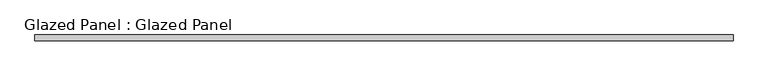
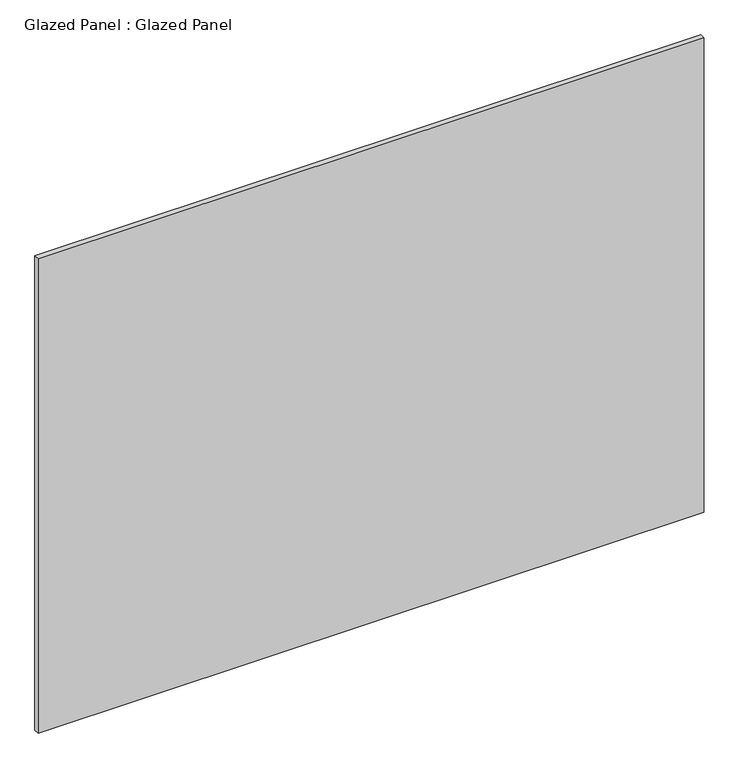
"""IFC4 building model written with IfcOpenShell, lengths in millimetres: plate geometry, Glazed Panel : Glazed Panel."""

from ifc_helpers import new_model, si_unit, origin, origin_with_axes, place, context, project, spatial, polyline, outline, extrude, source, transform, mapped, element, save


def glazed_panel_glazed_panel_48c708ce(model_context):
    return source(origin(), model_context, "Body", "SweptSolid", [
        extrude(outline(polyline([(1577.998125, -38.1), (1577.998125, -63.5), (-1577.998125, -63.5), (-1577.998125, -38.1), (1577.998125, -38.1)])), origin_with_axes(), (0.0, 0.0, 1.0), 2374.9),
    ])


if __name__ == "__main__":
    model = new_model("IFC4")
    model_context = context("Model", 3, world=origin())
    ifc_project = project(units=[si_unit("LENGTHUNIT", "METRE", prefix="MILLI")], contexts=[model_context])
    site = spatial("IfcSite", under=ifc_project)
    building = spatial("IfcBuilding", under=site)
    placement = place(None, origin())
    glazed_panel_glazed_panel_shape = glazed_panel_glazed_panel_48c708ce(model_context)
    element("IfcPlate", 1, ObjectType="Glazed Panel : Glazed Panel", at=placement, inside=building, context=model_context, shape_type="MappedRepresentation", body=[
        mapped(glazed_panel_glazed_panel_shape, transform((0.0, 0.0, 0.0), x_axis=(1.0, 0.0, 0.0), y_axis=(0.0, 1.0, 0.0), z_axis=(0.0, 0.0, 1.0))),
    ])
    save(model, "model.ifc")
